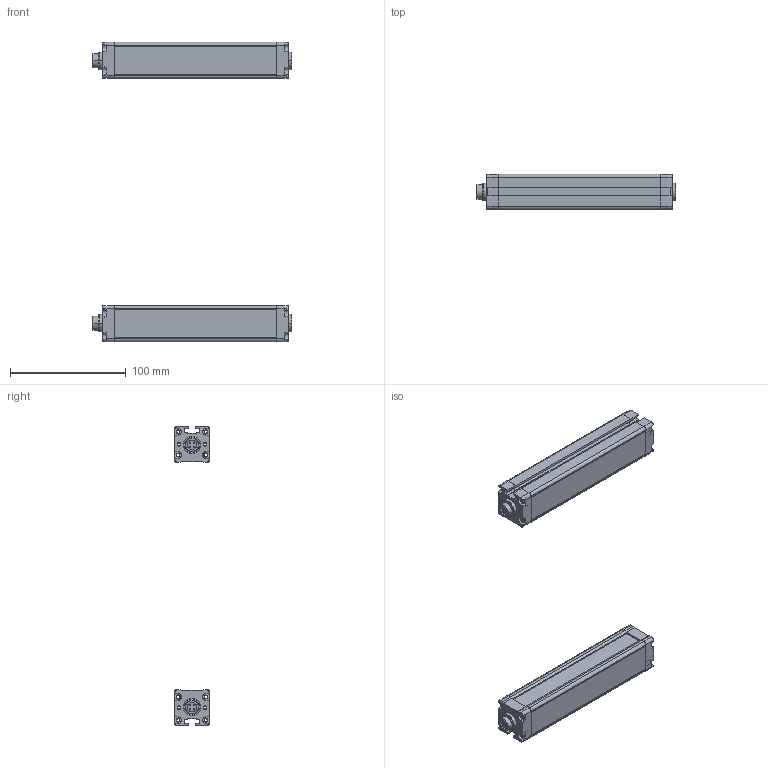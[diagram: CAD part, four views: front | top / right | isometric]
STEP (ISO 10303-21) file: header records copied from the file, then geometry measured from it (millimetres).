
FILE_DESCRIPTION((''),'2;1');
FILE_NAME('THW_ASM','2019-05-20T',('Administrator'),(''),'PRO/ENGINEER BY PARAMETRIC TECHNOLOGY CORPORATION, 2002180','PRO/ENGINEER BY PARAMETRIC TECHNOLOGY CORPORATION, 2002180','');
FILE_SCHEMA(('CONFIG_CONTROL_DESIGN'));
Length unit declared in the file: millimetre
Products named in the file (10): 11; 101; 102; 13; 12; 14; 16; ASM0002_ASM; 0000_ASM; THW_ASM
Assembly tree (10 placements, depth 4):
  THW_ASM
    0000_ASM  x2
      11
      101
      102
      13
      12
      ASM0002_ASM
        14
        16
Bounding box: 172 x 30.3 x 258.6 mm (x, y, z)
Volume: 96492.6 mm3; surface area: 127501.3 mm2
Topology: 10 solids, 14 shells, 1080 faces, 3010 edges, 1986 vertices
Faces by surface type: plane 764, cylinder 288, cone 28
Entity records: 17771 total; most frequent: CARTESIAN_POINT 3380, ORIENTED_EDGE 3006, DIRECTION 2885, EDGE_CURVE 1505, VECTOR 1177, LINE 1177, VERTEX_POINT 993, AXIS2_PLACEMENT_3D 854
